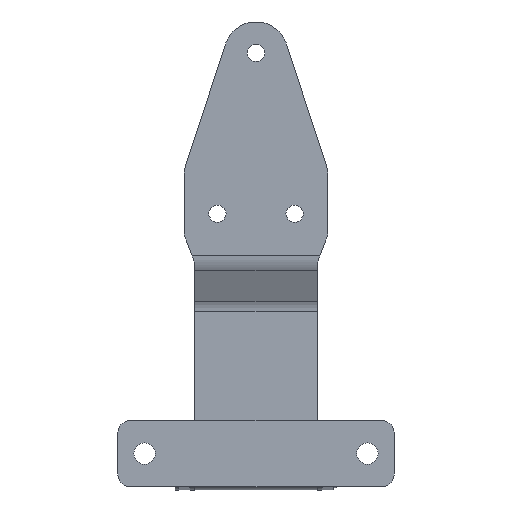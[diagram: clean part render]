
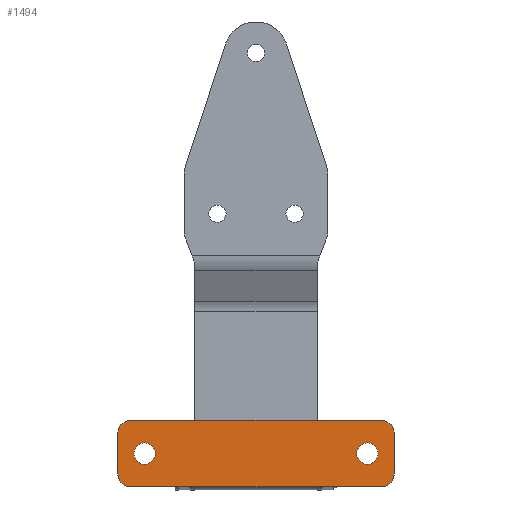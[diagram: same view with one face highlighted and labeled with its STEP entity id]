
A CAD part, front view. The second image highlights one B-rep face of the part: STEP entity #1494.
In plain terms, the highlighted planar face has unit normal (0, -1, 0).
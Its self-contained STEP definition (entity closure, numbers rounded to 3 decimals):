
#1430 = VERTEX_POINT ( 'NONE', #6296 ) ;
#1431 = VERTEX_POINT ( 'NONE', #6295 ) ;
#1432 = VERTEX_POINT ( 'NONE', #6294 ) ;
#1434 = VERTEX_POINT ( 'NONE', #6291 ) ;
#1436 = VERTEX_POINT ( 'NONE', #6283 ) ;
#1438 = VERTEX_POINT ( 'NONE', #6288 ) ;
#1440 = VERTEX_POINT ( 'NONE', #6286 ) ;
#1445 = VERTEX_POINT ( 'NONE', #6274 ) ;
#1494 = ADVANCED_FACE ( 'NONE', ( #3938, #3939, #3940 ), #6166, .F. ) ;
#1595 = EDGE_CURVE ( 'NONE', #2759, #2762, #2134, .T. ) ;
#1599 = EDGE_CURVE ( 'NONE', #2765, #2766, #2131, .T. ) ;
#1660 = EDGE_CURVE ( 'NONE', #1445, #1440, #2214, .T. ) ;
#1662 = EDGE_CURVE ( 'NONE', #1440, #1438, #4044, .T. ) ;
#1666 = EDGE_CURVE ( 'NONE', #1438, #1434, #2221, .T. ) ;
#1669 = EDGE_CURVE ( 'NONE', #1434, #1432, #4049, .T. ) ;
#1671 = EDGE_CURVE ( 'NONE', #1432, #1431, #2223, .T. ) ;
#1672 = EDGE_CURVE ( 'NONE', #1431, #1430, #4051, .T. ) ;
#1675 = EDGE_CURVE ( 'NONE', #1430, #1436, #2234, .T. ) ;
#1703 = EDGE_CURVE ( 'NONE', #1436, #1445, #4771, .T. ) ;
#1705 = EDGE_CURVE ( 'NONE', #2766, #2765, #2256, .T. ) ;
#1707 = EDGE_CURVE ( 'NONE', #2762, #2759, #2252, .T. ) ;
#2004 = AXIS2_PLACEMENT_3D ( 'NONE', #6158, #6160, #6164 ) ;
#2131 = CIRCLE ( 'NONE', #2145, 5. ) ;
#2134 = CIRCLE ( 'NONE', #2139, 5. ) ;
#2139 = AXIS2_PLACEMENT_3D ( 'NONE', #2659, #2658, #2660 ) ;
#2145 = AXIS2_PLACEMENT_3D ( 'NONE', #2668, #2670, #2669 ) ;
#2214 = CIRCLE ( 'NONE', #2216, 6. ) ;
#2216 = AXIS2_PLACEMENT_3D ( 'NONE', #4639, #4640, #4641 ) ;
#2218 = VECTOR ( 'NONE', #4645, 1000. ) ;
#2221 = CIRCLE ( 'NONE', #2222, 6. ) ;
#2222 = AXIS2_PLACEMENT_3D ( 'NONE', #4653, #4654, #4655 ) ;
#2223 = CIRCLE ( 'NONE', #2229, 6. ) ;
#2226 = VECTOR ( 'NONE', #4661, 1000. ) ;
#2229 = AXIS2_PLACEMENT_3D ( 'NONE', #4664, #4665, #4666 ) ;
#2232 = VECTOR ( 'NONE', #4668, 1000. ) ;
#2234 = CIRCLE ( 'NONE', #2236, 6. ) ;
#2236 = AXIS2_PLACEMENT_3D ( 'NONE', #4673, #4674, #4675 ) ;
#2252 = CIRCLE ( 'NONE', #2263, 5. ) ;
#2256 = CIRCLE ( 'NONE', #2260, 5. ) ;
#2257 = VECTOR ( 'NONE', #4965, 1000. ) ;
#2260 = AXIS2_PLACEMENT_3D ( 'NONE', #4968, #4969, #4970 ) ;
#2263 = AXIS2_PLACEMENT_3D ( 'NONE', #4974, #4975, #4976 ) ;
#2658 = DIRECTION ( 'NONE',  ( 0., -1., 0. ) ) ;
#2659 = CARTESIAN_POINT ( 'NONE',  ( 52., -20., 9. ) ) ;
#2660 = DIRECTION ( 'NONE',  ( 1., 0., 0. ) ) ;
#2668 = CARTESIAN_POINT ( 'NONE',  ( -52., -20., 9. ) ) ;
#2669 = DIRECTION ( 'NONE',  ( 1., 0., 0. ) ) ;
#2670 = DIRECTION ( 'NONE',  ( 0., -1., 0. ) ) ;
#2759 = VERTEX_POINT ( 'NONE', #6859 ) ;
#2762 = VERTEX_POINT ( 'NONE', #6862 ) ;
#2765 = VERTEX_POINT ( 'NONE', #6865 ) ;
#2766 = VERTEX_POINT ( 'NONE', #6866 ) ;
#3324 = ORIENTED_EDGE ( 'NONE', *, *, #1705, .F. ) ;
#3325 = ORIENTED_EDGE ( 'NONE', *, *, #1707, .F. ) ;
#3326 = ORIENTED_EDGE ( 'NONE', *, *, #1669, .F. ) ;
#3327 = ORIENTED_EDGE ( 'NONE', *, *, #1595, .F. ) ;
#3328 = ORIENTED_EDGE ( 'NONE', *, *, #1599, .F. ) ;
#3329 = ORIENTED_EDGE ( 'NONE', *, *, #1675, .F. ) ;
#3330 = ORIENTED_EDGE ( 'NONE', *, *, #1672, .F. ) ;
#3331 = ORIENTED_EDGE ( 'NONE', *, *, #1671, .F. ) ;
#3332 = ORIENTED_EDGE ( 'NONE', *, *, #1666, .F. ) ;
#3333 = ORIENTED_EDGE ( 'NONE', *, *, #1662, .F. ) ;
#3334 = ORIENTED_EDGE ( 'NONE', *, *, #1660, .F. ) ;
#3335 = ORIENTED_EDGE ( 'NONE', *, *, #1703, .F. ) ;
#3789 = EDGE_LOOP ( 'NONE', ( #3325, #3327 ) ) ;
#3790 = EDGE_LOOP ( 'NONE', ( #3324, #3328 ) ) ;
#3791 = EDGE_LOOP ( 'NONE', ( #3329, #3330, #3331, #3326, #3332, #3333, #3334, #3335 ) ) ;
#3938 = FACE_BOUND ( 'NONE', #3789, .T. ) ;
#3939 = FACE_BOUND ( 'NONE', #3790, .T. ) ;
#3940 = FACE_OUTER_BOUND ( 'NONE', #3791, .T. ) ;
#4044 = LINE ( 'NONE', #4644, #2218 ) ;
#4049 = LINE ( 'NONE', #4660, #2226 ) ;
#4051 = LINE ( 'NONE', #4667, #2232 ) ;
#4639 = CARTESIAN_POINT ( 'NONE',  ( 58.5, -20., 18.5 ) ) ;
#4640 = DIRECTION ( 'NONE',  ( 0., 1., 0. ) ) ;
#4641 = DIRECTION ( 'NONE',  ( 1., 0., 0. ) ) ;
#4644 = CARTESIAN_POINT ( 'NONE',  ( 64.5, -20., 9. ) ) ;
#4645 = DIRECTION ( 'NONE',  ( 0., 0., -1. ) ) ;
#4653 = CARTESIAN_POINT ( 'NONE',  ( 58.5, -20., -0.5 ) ) ;
#4654 = DIRECTION ( 'NONE',  ( 0., 1., 0. ) ) ;
#4655 = DIRECTION ( 'NONE',  ( 1., 0., 0. ) ) ;
#4660 = CARTESIAN_POINT ( 'NONE',  ( 0., -20., -6.5 ) ) ;
#4661 = DIRECTION ( 'NONE',  ( -1., 0., 0. ) ) ;
#4664 = CARTESIAN_POINT ( 'NONE',  ( -58.5, -20., -0.5 ) ) ;
#4665 = DIRECTION ( 'NONE',  ( 0., 1., 0. ) ) ;
#4666 = DIRECTION ( 'NONE',  ( 1., 0., 0. ) ) ;
#4667 = CARTESIAN_POINT ( 'NONE',  ( -64.5, -20., 9. ) ) ;
#4668 = DIRECTION ( 'NONE',  ( 0., 0., 1. ) ) ;
#4673 = CARTESIAN_POINT ( 'NONE',  ( -58.5, -20., 18.5 ) ) ;
#4674 = DIRECTION ( 'NONE',  ( 0., 1., 0. ) ) ;
#4675 = DIRECTION ( 'NONE',  ( 1., 0., 0. ) ) ;
#4768 = CARTESIAN_POINT ( 'NONE',  ( 0., -20., 24.5 ) ) ;
#4771 = LINE ( 'NONE', #4768, #2257 ) ;
#4965 = DIRECTION ( 'NONE',  ( 1., 0., 0. ) ) ;
#4968 = CARTESIAN_POINT ( 'NONE',  ( -52., -20., 9. ) ) ;
#4969 = DIRECTION ( 'NONE',  ( 0., -1., 0. ) ) ;
#4970 = DIRECTION ( 'NONE',  ( 1., 0., 0. ) ) ;
#4974 = CARTESIAN_POINT ( 'NONE',  ( 52., -20., 9. ) ) ;
#4975 = DIRECTION ( 'NONE',  ( 0., -1., 0. ) ) ;
#4976 = DIRECTION ( 'NONE',  ( 1., 0., 0. ) ) ;
#6158 = CARTESIAN_POINT ( 'NONE',  ( -64.5, -20., -6.5 ) ) ;
#6160 = DIRECTION ( 'NONE',  ( 0., 1., 0. ) ) ;
#6164 = DIRECTION ( 'NONE',  ( 0., 0., 1. ) ) ;
#6166 = PLANE ( 'NONE',  #2004 ) ;
#6274 = CARTESIAN_POINT ( 'NONE',  ( 58.5, -20., 24.5 ) ) ;
#6283 = CARTESIAN_POINT ( 'NONE',  ( -58.5, -20., 24.5 ) ) ;
#6286 = CARTESIAN_POINT ( 'NONE',  ( 64.5, -20., 18.5 ) ) ;
#6288 = CARTESIAN_POINT ( 'NONE',  ( 64.5, -20., -0.5 ) ) ;
#6291 = CARTESIAN_POINT ( 'NONE',  ( 58.5, -20., -6.5 ) ) ;
#6294 = CARTESIAN_POINT ( 'NONE',  ( -58.5, -20., -6.5 ) ) ;
#6295 = CARTESIAN_POINT ( 'NONE',  ( -64.5, -20., -0.5 ) ) ;
#6296 = CARTESIAN_POINT ( 'NONE',  ( -64.5, -20., 18.5 ) ) ;
#6859 = CARTESIAN_POINT ( 'NONE',  ( 47., -20., 9. ) ) ;
#6862 = CARTESIAN_POINT ( 'NONE',  ( 57., -20., 9. ) ) ;
#6865 = CARTESIAN_POINT ( 'NONE',  ( -57., -20., 9. ) ) ;
#6866 = CARTESIAN_POINT ( 'NONE',  ( -47., -20., 9. ) ) ;
